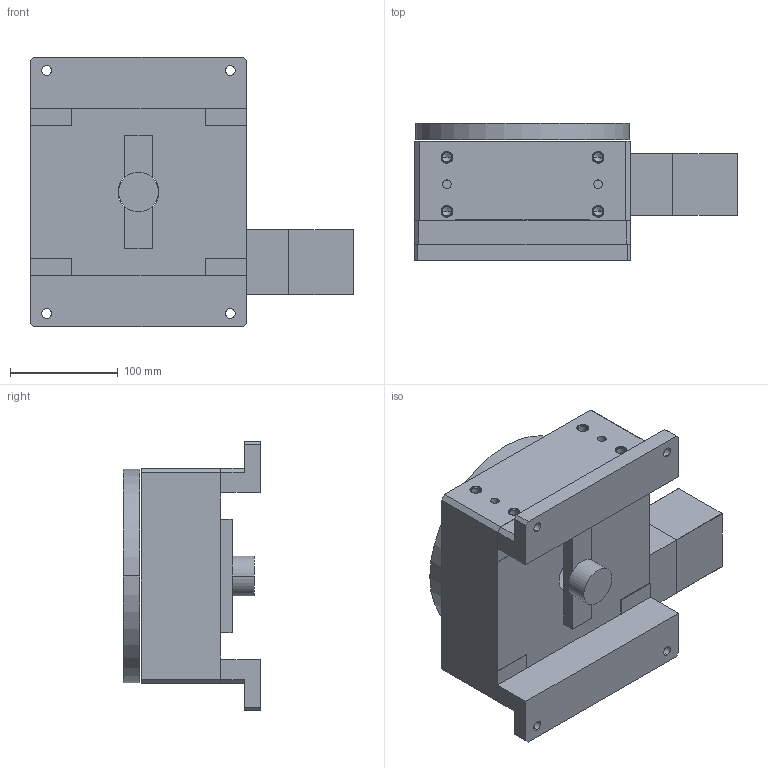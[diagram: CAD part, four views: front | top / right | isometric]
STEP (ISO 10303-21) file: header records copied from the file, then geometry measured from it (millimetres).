
FILE_DESCRIPTION((''),'2;1');
FILE_NAME('R200M7M34E1_ASM','2009-07-02T',('FK20128'),(''),'PRO/ENGINEER BY PARAMETRIC TECHNOLOGY CORPORATION, 2006200','PRO/ENGINEER BY PARAMETRIC TECHNOLOGY CORPORATION, 2006200','');
FILE_SCHEMA(('CONFIG_CONTROL_DESIGN'));
Length unit declared in the file: millimetre
Products named in the file (7): R200M; R200M-M34; R200M-ENCODER-BRKT; R200M-ENCODER-STANDOFF; RXXXM-ENCODER; R200M-E1_ASM; R200M7M34E1_ASM
Assembly tree (7 placements, depth 3):
  R200M7M34E1_ASM
    R200M
    R200M-M34
    R200M-E1_ASM
      R200M-ENCODER-BRKT
      R200M-ENCODER-STANDOFF  x2
      RXXXM-ENCODER
Bounding box: 299.12 x 127 x 250.02 mm (x, y, z)
Volume: 3994587.5 mm3; surface area: 362912.1 mm2
Topology: 7 solids, 27 shells, 311 faces, 764 edges, 498 vertices
Faces by surface type: cylinder 156, plane 113, cone 42
Entity records: 8532 total; most frequent: DIRECTION 1622, CARTESIAN_POINT 1417, ORIENTED_EDGE 1252, EDGE_CURVE 662, AXIS2_PLACEMENT_3D 655, VERTEX_POINT 450, EDGE_LOOP 378, CIRCLE 350
